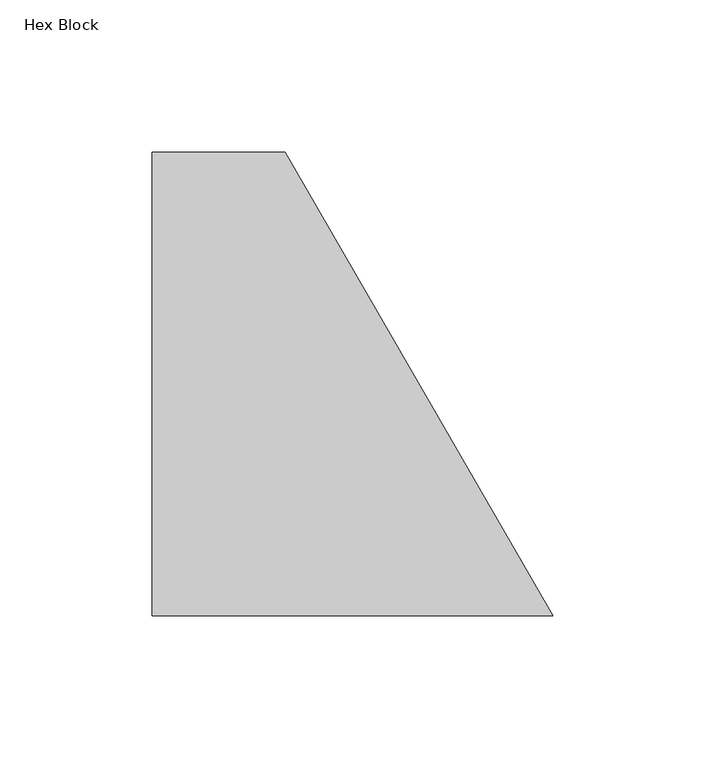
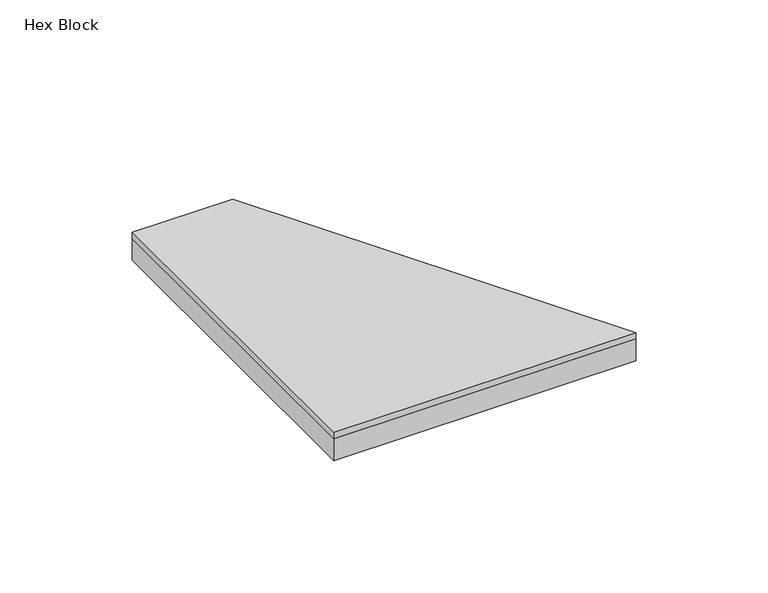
"""IFC4 building model written with IfcOpenShell, lengths in millimetres: proxy geometry, FilzFelt_Hex_Block : Hex Block."""

import ifcopenshell
import ifcopenshell.guid

model = None  # the IFC model being written
_history = None  # IfcOwnerHistory: only IFC2X3 demands one
_inside = {}  # id of a spatial element -> (the spatial element, [elements in it])
_under = {}  # id of a project, library or spatial element -> (it, [spatial elements below it])
_declared = {}  # id of a project -> (the project, [libraries it declares])
_typed = {}  # id of a type object -> (the type object, [elements of that type])
_made_of = {}  # id of a material, layer set ... -> (it, [elements and type objects made of it])


def new_model(schema):
    """Start an empty IFC model of exactly this schema.

    Asked for "IFC4X3", IfcOpenShell would pick the latest addendum, in which some entities
    have other attributes; the version numbers below select the first issue.
    IFC2X3 requires an IfcOwnerHistory on every rooted entity: one is made here for all.
    """
    global model, _history
    if schema == "IFC4X3":
        model = ifcopenshell.file(schema_version=(4, 3, 0, 0))
    else:
        model = ifcopenshell.file(schema=schema)
    _inside.clear()
    _under.clear()
    _declared.clear()
    _typed.clear()
    _made_of.clear()
    _history = None
    if model.schema == "IFC2X3":
        org = make("IfcOrganization", Name="unknown")
        user = make(
            "IfcPersonAndOrganization",
            ThePerson=make("IfcPerson", FamilyName="unknown"),
            TheOrganization=org,
        )
        app = make(
            "IfcApplication",
            ApplicationDeveloper=org,
            Version="unknown",
            ApplicationFullName="unknown",
            ApplicationIdentifier="unknown",
        )
        _history = make(
            "IfcOwnerHistory",
            OwningUser=user,
            OwningApplication=app,
            ChangeAction="ADDED",
            CreationDate=0,
        )
    return model


def make(cls, **values):
    """One entity of the class cls with the attributes given. An attribute that is None is left unset."""
    return model.create_entity(
        cls, **{name: value for name, value in values.items() if value is not None}
    )


def rooted(cls, **values):
    """An entity with a GlobalId (a new one), such as an element, a storey or a relation."""
    return make(cls, GlobalId=ifcopenshell.guid.new(), OwnerHistory=_history, **values)


def si_unit(unit_type, name, prefix=None):
    """IfcSIUnit, for example si_unit("LENGTHUNIT", "METRE", prefix="MILLI")."""
    return make("IfcSIUnit", UnitType=unit_type, Prefix=prefix, Name=name)


def assignment(units):
    """IfcUnitAssignment: the units of a project."""
    return None if units is None else make("IfcUnitAssignment", Units=units)


def point(xyz):
    """IfcCartesianPoint."""
    return None if xyz is None else make("IfcCartesianPoint", Coordinates=xyz)


def direction(xyz):
    """IfcDirection."""
    return None if xyz is None else make("IfcDirection", DirectionRatios=xyz)


def frame(location, z_axis=None, x_axis=None):
    """IfcAxis2Placement3D, a coordinate frame: its origin and axes. An axis left out is left unset."""
    return make(
        "IfcAxis2Placement3D",
        Location=point(location),
        Axis=direction(z_axis),
        RefDirection=direction(x_axis),
    )


def origin():
    """The frame at (0, 0, 0) with its axes left unset."""
    return frame((0.0, 0.0, 0.0))


def origin_with_axes():
    """The frame at (0, 0, 0) with the z axis (0, 0, 1) and the x axis (1, 0, 0) written out."""
    return frame((0.0, 0.0, 0.0), z_axis=(0.0, 0.0, 1.0), x_axis=(1.0, 0.0, 0.0))


def place(relative_to, where):
    """IfcLocalPlacement: puts the frame where relative to a parent placement (None: the world)."""
    return make(
        "IfcLocalPlacement", PlacementRelTo=relative_to, RelativePlacement=where
    )


def context(
    kind, dimensions, precision=None, world=None, true_north=None, identifier=None
):
    """IfcGeometricRepresentationContext, for example the 3D "Model" context."""
    return make(
        "IfcGeometricRepresentationContext",
        ContextIdentifier=identifier,
        ContextType=kind,
        CoordinateSpaceDimension=dimensions,
        Precision=precision,
        WorldCoordinateSystem=world,
        TrueNorth=true_north,
    )


def project(units=None, contexts=None):
    """IfcProject with its units and contexts."""
    return rooted(
        "IfcProject",
        Name="project",
        RepresentationContexts=contexts,
        UnitsInContext=assignment(units),
    )


def spatial(cls, under=None, at=None, **own):
    """A site, building, storey or space (cls), placed at a placement, below another one or the project."""
    s = rooted(cls, ObjectPlacement=at, **own)
    if under is not None:
        _under.setdefault(under.id(), (under, []))[1].append(s)
    return s


def polyline(points):
    """IfcPolyline through the points."""
    return make("IfcPolyline", Points=[point(p) for p in points])


def outline(outer, holes=None, kind="AREA"):
    """IfcArbitraryClosedProfileDef: a profile drawn as a closed curve; with holes, ...WithVoids."""
    if holes is None:
        return make("IfcArbitraryClosedProfileDef", ProfileType=kind, OuterCurve=outer)
    return make(
        "IfcArbitraryProfileDefWithVoids",
        ProfileType=kind,
        OuterCurve=outer,
        InnerCurves=holes,
    )


def extrude(swept, where, along, depth):
    """IfcExtrudedAreaSolid: the profile swept, set in the frame where, extruded along a direction by depth."""
    return make(
        "IfcExtrudedAreaSolid",
        SweptArea=swept,
        Position=where,
        ExtrudedDirection=direction(along),
        Depth=depth,
    )


def shape(context_of_items, identifier, shape_type, items):
    """IfcShapeRepresentation: the items that make up one representation, for example the "Body"."""
    return make(
        "IfcShapeRepresentation",
        ContextOfItems=context_of_items,
        RepresentationIdentifier=identifier,
        RepresentationType=shape_type,
        Items=items,
    )


def source(mapping_origin, context_of_items, identifier, shape_type, items):
    """IfcRepresentationMap: a shape defined once, which mapped items show again and again."""
    return make(
        "IfcRepresentationMap",
        MappingOrigin=mapping_origin,
        MappedRepresentation=shape(context_of_items, identifier, shape_type, items),
    )


def transform(
    local_origin,
    x_axis=None,
    y_axis=None,
    z_axis=None,
    scale=None,
    scale2=None,
    scale3=None,
    uniform=True,
):
    """IfcCartesianTransformationOperator3D, or its non-uniform kind. x_axis, y_axis, z_axis: its Axis1, 2, 3."""
    if uniform:
        return make(
            "IfcCartesianTransformationOperator3D",
            Axis1=direction(x_axis),
            Axis2=direction(y_axis),
            LocalOrigin=point(local_origin),
            Scale=scale,
            Axis3=direction(z_axis),
        )
    return make(
        "IfcCartesianTransformationOperator3DnonUniform",
        Axis1=direction(x_axis),
        Axis2=direction(y_axis),
        LocalOrigin=point(local_origin),
        Scale=scale,
        Axis3=direction(z_axis),
        Scale2=scale2,
        Scale3=scale3,
    )


def mapped(mapping_source, mapping_target):
    """IfcMappedItem: shows the shape of a source again, moved by a transform."""
    return make(
        "IfcMappedItem", MappingSource=mapping_source, MappingTarget=mapping_target
    )


def made_of(thing, what):
    """Note that an element or type object is made of a material, layer set ...; save() writes the relation."""
    if what is not None:
        _made_of.setdefault(what.id(), (what, []))[1].append(thing)
    return thing


def element(
    cls,
    number,
    at=None,
    inside=None,
    cuts=None,
    type_object=None,
    material=None,
    context=None,
    identifier="Body",
    shape_type=None,
    held_by="IfcProductDefinitionShape",
    body=None,
    shapes=None,
    **own,
):
    """One element of the class cls, such as IfcWall. Its Tag is "e" and its number.

    at: its placement. inside: the storey or other place that contains it. cuts: it is an
    opening in that element (IfcRelVoidsElement). A single representation is given by context,
    identifier, shape_type and body (its items); several are given by shapes. held_by: the class
    of the entity that holds the representations. save() writes the other relations.
    """
    e = rooted(cls, Tag="e%d" % number, ObjectPlacement=at, **own)
    if body is not None:
        shapes = [shape(context, identifier, shape_type, body)]
    if shapes is not None:
        e.Representation = make(held_by, Representations=shapes)
    if inside is not None:
        _inside.setdefault(inside.id(), (inside, []))[1].append(e)
    if cuts is not None:
        rooted(
            "IfcRelVoidsElement", RelatingBuildingElement=cuts, RelatedOpeningElement=e
        )
    if type_object is not None:
        _typed.setdefault(type_object.id(), (type_object, []))[1].append(e)
    return made_of(e, material)


def aggregate(whole, parts):
    """IfcRelAggregates: a whole, such as a stair, and the parts it consists of."""
    return rooted("IfcRelAggregates", RelatingObject=whole, RelatedObjects=parts)


def save(model, path):
    """Write the relations noted so far, then the file.

    IfcRelAggregates (storeys below a building ...), IfcRelContainedInSpatialStructure (elements
    in a storey), IfcRelDefinesByType, IfcRelAssociatesMaterial and IfcRelDeclares: one each for
    every whole, place, type object, material and project.
    """
    for whole, parts in _under.values():
        aggregate(whole, parts)
    for where, things in _inside.values():
        rooted(
            "IfcRelContainedInSpatialStructure",
            RelatedElements=things,
            RelatingStructure=where,
        )
    for kind, things in _typed.values():
        rooted("IfcRelDefinesByType", RelatedObjects=things, RelatingType=kind)
    for what, things in _made_of.values():
        rooted("IfcRelAssociatesMaterial", RelatedObjects=things, RelatingMaterial=what)
    for by, libraries in _declared.values():
        rooted("IfcRelDeclares", RelatingContext=by, RelatedDefinitions=libraries)
    model.write(path)


def hex_block_e8bb8b6b(model_context):
    return source(origin(), model_context, "Body", "SweptSolid", [
        extrude(outline(polyline([(87.988181, 152.4), (175.976362, 0.0), (44.2024582, 0.0), (44.2024582, 152.4), (87.988181, 152.4)])), frame((0.0, 0.0, 10.0210937), z_axis=(0.0, 0.0, 1.0), x_axis=(1.0, 0.0, 0.0)), (0.0, 0.0, 1.0), 2.9765625),
        extrude(outline(polyline([(87.988181, 152.4), (175.976362, 0.0), (44.2024582, 0.0), (44.2024582, 152.4), (87.988181, 152.4)])), origin_with_axes(), (0.0, 0.0, 1.0), 10.0210938),
    ])


if __name__ == "__main__":
    model = new_model("IFC4")
    model_context = context("Model", 3, world=origin())
    ifc_project = project(units=[si_unit("LENGTHUNIT", "METRE", prefix="MILLI")], contexts=[model_context])
    site = spatial("IfcSite", under=ifc_project)
    building = spatial("IfcBuilding", under=site)
    placement = place(None, origin())
    hex_block_shape = hex_block_e8bb8b6b(model_context)
    element("IfcBuildingElementProxy", 1, Name="FilzFelt_Hex_Block : Hex Block", ObjectType="FilzFelt_Hex_Block : Hex Block", at=placement, inside=building, context=model_context, shape_type="MappedRepresentation", body=[
        mapped(hex_block_shape, transform((0.0, 0.0, 0.0), x_axis=(1.0, 0.0, 0.0), y_axis=(0.0, 1.0, 0.0), z_axis=(0.0, 0.0, 1.0))),
    ])
    save(model, "model.ifc")
